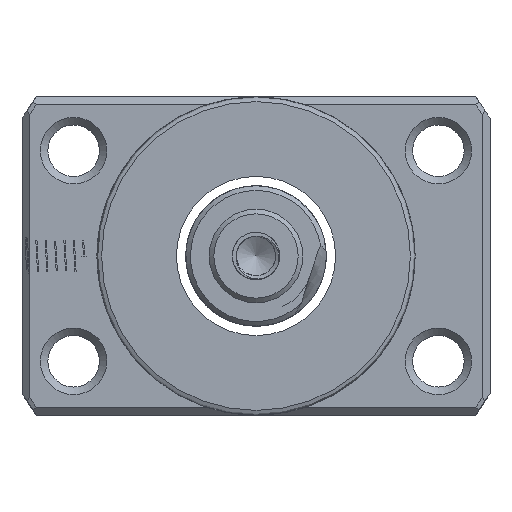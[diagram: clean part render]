
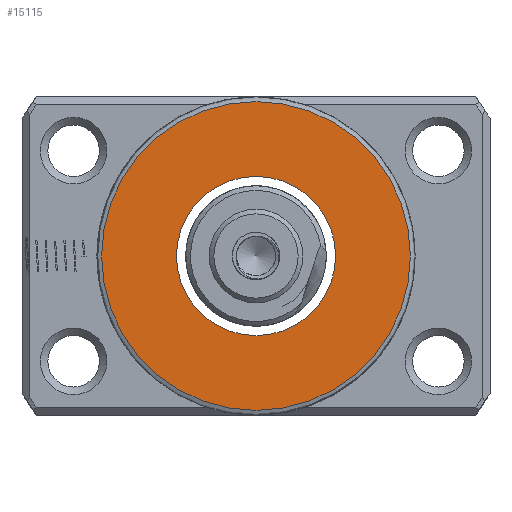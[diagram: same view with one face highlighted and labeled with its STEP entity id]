
A CAD part, left-side view. The second image highlights one B-rep face of the part: STEP entity #15115.
In plain terms, the highlighted planar face has unit normal (-1, 0, 0).
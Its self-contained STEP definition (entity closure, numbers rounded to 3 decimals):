
#2217 = DIRECTION ( 'NONE',  ( 0., 0., 1. ) ) ;
#2463 = AXIS2_PLACEMENT_3D ( 'NONE', #4034, #13964, #12683 ) ;
#2743 = FACE_OUTER_BOUND ( 'NONE', #8289, .T. ) ;
#2988 = CARTESIAN_POINT ( 'NONE',  ( -53.324, 0., 0. ) ) ;
#3516 = DIRECTION ( 'NONE',  ( -1., 0., 0. ) ) ;
#4034 = CARTESIAN_POINT ( 'NONE',  ( -53.324, 8.5, 0. ) ) ;
#4977 = CARTESIAN_POINT ( 'NONE',  ( -53.324, 0., 0. ) ) ;
#5282 = EDGE_CURVE ( 'NONE', #6842, #6842, #13973, .T. ) ;
#6756 = EDGE_LOOP ( 'NONE', ( #9515 ) ) ;
#6842 = VERTEX_POINT ( 'NONE', #8218 ) ;
#7392 = EDGE_CURVE ( 'NONE', #13832, #13832, #10759, .T. ) ;
#8097 = AXIS2_PLACEMENT_3D ( 'NONE', #4977, #3516, #2217 ) ;
#8128 = CARTESIAN_POINT ( 'NONE',  ( -53.324, 0., 8.5 ) ) ;
#8218 = CARTESIAN_POINT ( 'NONE',  ( -53.324, 0., 16.5 ) ) ;
#8289 = EDGE_LOOP ( 'NONE', ( #16092 ) ) ;
#8504 = DIRECTION ( 'NONE',  ( -1., 0., 0. ) ) ;
#9515 = ORIENTED_EDGE ( 'NONE', *, *, #7392, .F. ) ;
#9831 = PLANE ( 'NONE',  #2463 ) ;
#10759 = CIRCLE ( 'NONE', #8097, 8.5 ) ;
#11311 = FACE_BOUND ( 'NONE', #6756, .T. ) ;
#12683 = DIRECTION ( 'NONE',  ( 0., 0., 1. ) ) ;
#13832 = VERTEX_POINT ( 'NONE', #8128 ) ;
#13964 = DIRECTION ( 'NONE',  ( -1., 0., 0. ) ) ;
#13973 = CIRCLE ( 'NONE', #16308, 16.5 ) ;
#14115 = DIRECTION ( 'NONE',  ( 0., 0., 1. ) ) ;
#15115 = ADVANCED_FACE ( 'NONE', ( #2743, #11311 ), #9831, .T. ) ;
#16092 = ORIENTED_EDGE ( 'NONE', *, *, #5282, .T. ) ;
#16308 = AXIS2_PLACEMENT_3D ( 'NONE', #2988, #8504, #14115 ) ;
